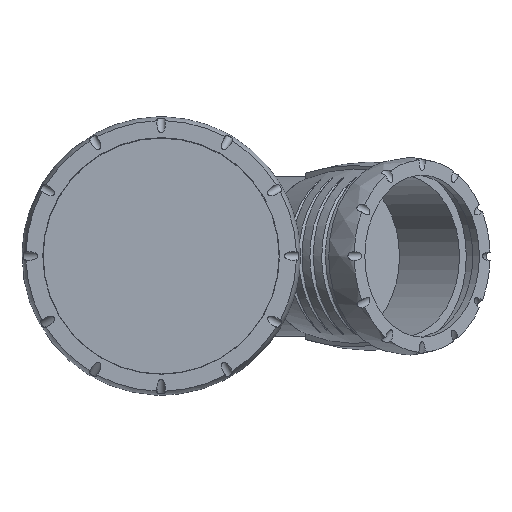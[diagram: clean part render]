
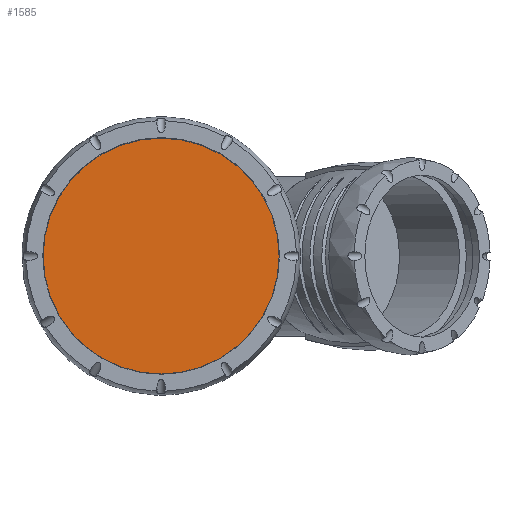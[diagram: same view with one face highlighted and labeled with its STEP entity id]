
A CAD part, top view. The second image highlights one B-rep face of the part: STEP entity #1585.
In plain terms, the highlighted planar face has unit normal (0, 0, 1).
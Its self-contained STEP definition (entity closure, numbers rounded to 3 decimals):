
#216=PLANE('',#1710);
#292=FACE_OUTER_BOUND('',#399,.T.);
#399=EDGE_LOOP('',(#1011));
#534=CIRCLE('',#1711,55.5);
#607=VERTEX_POINT('',#2294);
#775=EDGE_CURVE('',#607,#607,#534,.T.);
#1011=ORIENTED_EDGE('',*,*,#775,.T.);
#1585=ADVANCED_FACE('',(#292),#216,.T.);
#1710=AXIS2_PLACEMENT_3D('',#2293,#1894,#1895);
#1711=AXIS2_PLACEMENT_3D('',#2295,#1896,#1897);
#1894=DIRECTION('center_axis',(0.,0.,
1.));
#1895=DIRECTION('ref_axis',(0.,1.,0.));
#1896=DIRECTION('center_axis',(0.,0.,
1.));
#1897=DIRECTION('ref_axis',(0.,1.,0.));
#2293=CARTESIAN_POINT('Origin',(0.,0.,
188.85));
#2294=CARTESIAN_POINT('',(-55.5,0.,188.85));
#2295=CARTESIAN_POINT('Origin',(0.,0.,
188.85));
